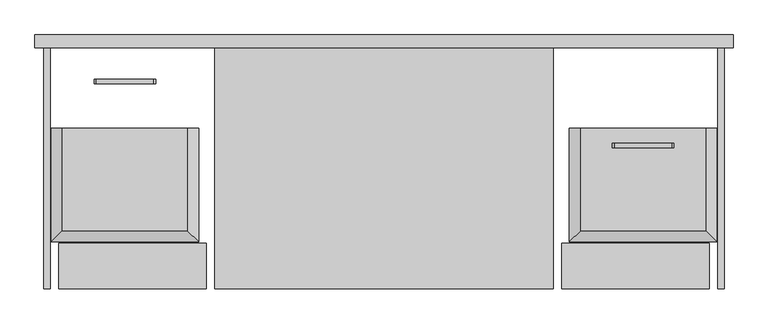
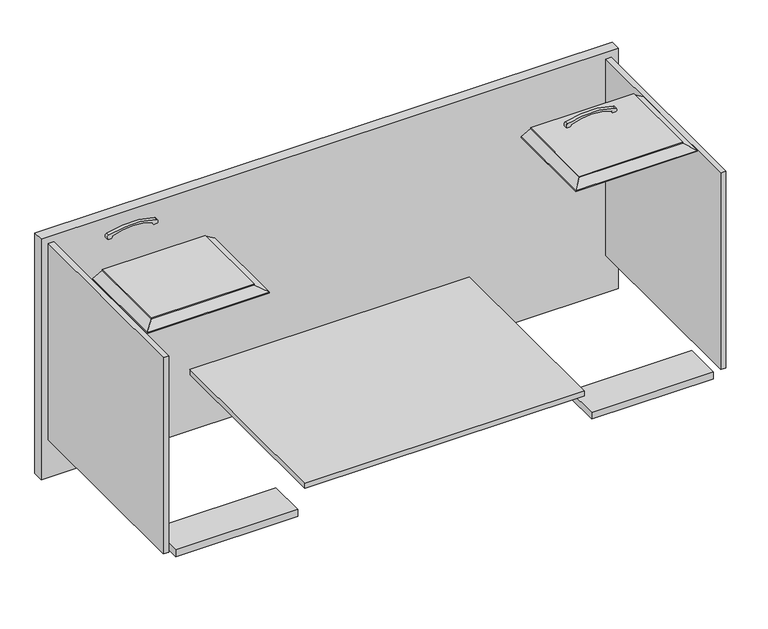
"""IFC4 building model written with IfcOpenShell, lengths in millimetres: proxy geometry, CCN^BRIGHTON_39x84 DESK-PARTS SOLID."""

from ifc_helpers import new_model, si_unit, point, frame, frame_2d, origin, origin_with_axes, place, context, project, spatial, polyline, circle_curve, trimmed, segment, composite_curve, outline, extrude, faceted_brep, source, transform, mapped, element, save


def generic_models_5e41b02c(model_context):
    return source(origin(), model_context, "Body", "SolidModel", [
        extrude(outline(polyline([(44.45, 0.0), (25.4, 0.0), (25.4, 704.85), (44.45, 704.85), (44.45, 0.0)])), frame((0.0, 0.0, 25.4), z_axis=(0.0, 0.0, 1.0), x_axis=(1.0, 0.0, 0.0)), (0.0, 0.0, 1.0), 736.6),
        extrude(outline(polyline([(2019.3, 0.0), (2000.25, 0.0), (2000.25, 704.85), (2019.3, 704.85), (2019.3, 0.0)])), frame((0.0, 0.0, 25.4), z_axis=(0.0, 0.0, 1.0), x_axis=(1.0, 0.0, 0.0)), (0.0, 0.0, 1.0), 736.6),
        extrude(outline(polyline([(527.05, 0.0), (527.05, 704.85), (1517.65, 704.85), (1517.65, 0.0), (527.05, 0.0)])), frame((0.0, 0.0, 95.25), z_axis=(0.0, 0.0, 1.0), x_axis=(1.0, 0.0, 0.0)), (0.0, 0.0, 1.0), 19.05),
        extrude(outline(polyline([(2044.7, 704.85), (0.0, 704.85), (0.0, 742.95), (2044.7, 742.95), (2044.7, 704.85)])), frame((0.0, 0.0, -114.3), z_axis=(0.0, 0.0, 1.0), x_axis=(1.0, 0.0, 0.0)), (0.0, 0.0, 1.0), 901.7),
        faceted_brep([(446.4294321, 169.5205679, 787.4), (446.4294321, 169.5205679, 784.225), (446.4294321, 469.9, 784.225), (446.4294321, 469.9, 787.4), (479.425, 136.525, 765.175), (479.425, 469.9, 765.175), (80.6205679, 169.5205679, 787.4), (80.6205679, 169.5205679, 784.225), (47.625, 136.525, 765.175), (80.6205679, 469.9, 787.4), (80.6205679, 469.9, 784.225), (47.625, 469.9, 765.175), (479.425, 136.525, 762.0), (479.425, 469.9, 762.0), (47.625, 136.525, 762.0), (47.625, 469.9, 762.0)], [[[0, 1, 2, 3]], [[1, 4, 5, 2]], [[6, 7, 1, 0]], [[7, 8, 4, 1]], [[9, 10, 7, 6]], [[10, 11, 8, 7]], [[5, 4, 12, 13]], [[4, 8, 14, 12]], [[8, 11, 15, 14]], [[2, 5, 13, 15, 11, 10, 9, 3]], [[0, 3, 9, 6]], [[12, 14, 15, 13]]]),
        faceted_brep([(1598.2705679, 169.5205679, 784.225), (1598.2705679, 169.5205679, 787.4), (1598.2705679, 469.9, 787.4), (1598.2705679, 469.9, 784.225), (1565.275, 136.525, 765.175), (1565.275, 469.9, 765.175), (1964.0794321, 169.5205679, 784.225), (1964.0794321, 169.5205679, 787.4), (1997.075, 136.525, 765.175), (1964.0794321, 469.9, 784.225), (1964.0794321, 469.9, 787.4), (1997.075, 469.9, 765.175), (1565.275, 469.9, 762.0), (1565.275, 136.525, 762.0), (1997.075, 136.525, 762.0), (1997.075, 469.9, 762.0)], [[[0, 1, 2, 3]], [[4, 0, 3, 5]], [[6, 7, 1, 0]], [[8, 6, 0, 4]], [[9, 10, 7, 6]], [[11, 9, 6, 8]], [[4, 5, 12, 13]], [[8, 4, 13, 14]], [[11, 8, 14, 15]], [[5, 3, 2, 10, 9, 11, 15, 12]], [[2, 1, 7, 10]], [[14, 13, 12, 15]]]),
        extrude(outline(polyline([(501.65, 0.0), (69.85, 0.0), (69.85, 133.35), (501.65, 133.35), (501.65, 0.0)])), origin_with_axes(), (0.0, 0.0, 1.0), 25.4),
        extrude(outline(polyline([(1974.85, 0.0), (1543.05, 0.0), (1543.05, 133.35), (1974.85, 133.35), (1974.85, 0.0)])), origin_with_axes(), (0.0, 0.0, 1.0), 25.4),
        extrude(outline(composite_curve([segment(polyline([(787.4, 1694.5181458), (787.4, 1705.8318542)]), True, "CONTINUOUS"), segment(trimmed(circle_curve(frame_2d((794.4, 1700.175)), 9.0), [point((787.4, 1705.8318542))], [point((794.4, 1709.175))], False, "CARTESIAN"), True, "CONTINUOUS"), segment(trimmed(circle_curve(frame_2d((631.8305072, 1781.175)), 177.8), [point((794.4, 1709.175))], [point((794.4, 1853.175))], True, "CARTESIAN"), True, "CONTINUOUS"), segment(trimmed(circle_curve(frame_2d((794.4, 1862.175)), 9.0), [point((794.4, 1853.175))], [point((787.4, 1856.5181458))], False, "CARTESIAN"), True, "CONTINUOUS"), segment(polyline([(787.4, 1856.5181458), (787.4, 1867.8318542)]), True, "CONTINUOUS"), segment(trimmed(circle_curve(frame_2d((794.4, 1862.175)), 9.0), [point((787.4, 1867.8318542))], [point((803.0134228, 1864.784396))], False, "CARTESIAN"), True, "CONTINUOUS"), segment(trimmed(circle_curve(frame_2d((527.025, 1781.175)), 288.375), [point((803.0134228, 1864.784396))], [point((803.0134228, 1697.565604))], False, "CARTESIAN"), True, "CONTINUOUS"), segment(trimmed(circle_curve(frame_2d((794.4, 1700.175)), 9.0), [point((803.0134228, 1697.565604))], [point((787.4, 1694.5181458))], False, "CARTESIAN"), True, "CONTINUOUS")], self_intersect=False)), frame((0.0, 413.1, 0.0), z_axis=(0.0, 1.0, 0.0), x_axis=(0.0, 0.0, 1.0)), (0.0, 0.0, 1.0), 12.0),
        extrude(outline(composite_curve([segment(polyline([(787.4, 176.8681458), (787.4, 188.1818542)]), True, "CONTINUOUS"), segment(trimmed(circle_curve(frame_2d((794.4, 182.525)), 9.0), [point((787.4, 188.1818542))], [point((794.4, 191.525))], False, "CARTESIAN"), True, "CONTINUOUS"), segment(trimmed(circle_curve(frame_2d((631.8305072, 263.525)), 177.8), [point((794.4, 191.525))], [point((794.4, 335.525))], True, "CARTESIAN"), True, "CONTINUOUS"), segment(trimmed(circle_curve(frame_2d((794.4, 344.525)), 9.0), [point((794.4, 335.525))], [point((787.4, 338.8681458))], False, "CARTESIAN"), True, "CONTINUOUS"), segment(polyline([(787.4, 338.8681458), (787.4, 350.1818542)]), True, "CONTINUOUS"), segment(trimmed(circle_curve(frame_2d((794.4, 344.525)), 9.0), [point((787.4, 350.1818542))], [point((803.0134228, 347.134396))], False, "CARTESIAN"), True, "CONTINUOUS"), segment(trimmed(circle_curve(frame_2d((527.025, 263.525)), 288.375), [point((803.0134228, 347.134396))], [point((803.0134228, 179.915604))], False, "CARTESIAN"), True, "CONTINUOUS"), segment(trimmed(circle_curve(frame_2d((794.4, 182.525)), 9.0), [point((803.0134228, 179.915604))], [point((787.4, 176.8681458))], False, "CARTESIAN"), True, "CONTINUOUS")], self_intersect=False)), frame((0.0, 600.425, 0.0), z_axis=(0.0, 1.0, 0.0), x_axis=(0.0, 0.0, 1.0)), (0.0, 0.0, 1.0), 12.0),
    ])


if __name__ == "__main__":
    model = new_model("IFC4")
    model_context = context("Model", 3, world=origin())
    ifc_project = project(units=[si_unit("LENGTHUNIT", "METRE", prefix="MILLI")], contexts=[model_context])
    site = spatial("IfcSite", under=ifc_project)
    building = spatial("IfcBuilding", under=site)
    placement = place(None, origin())
    generic_models_shape = generic_models_5e41b02c(model_context)
    element("IfcBuildingElementProxy", 1, Name="CCN^BRIGHTON_39x84 DESK-PARTS SOLID", ObjectType="CCN^BRIGHTON_39x84 DESK-PARTS SOLID", at=placement, inside=building, context=model_context, shape_type="MappedRepresentation", body=[
        mapped(generic_models_shape, transform((0.0, 0.0, 0.0), x_axis=(1.0, 0.0, 0.0), y_axis=(0.0, 1.0, 0.0), z_axis=(0.0, 0.0, 1.0))),
    ])
    save(model, "model.ifc")
